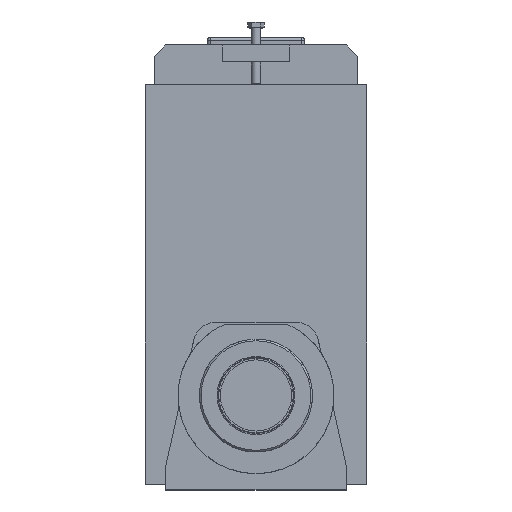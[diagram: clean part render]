
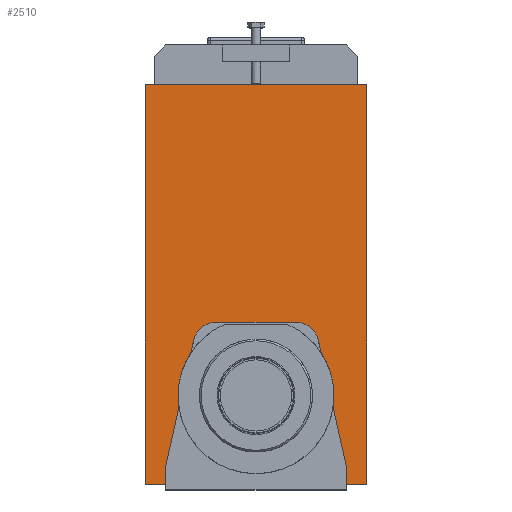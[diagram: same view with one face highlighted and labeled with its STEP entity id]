
A CAD part, top view. The second image highlights one B-rep face of the part: STEP entity #2510.
In plain terms, the highlighted planar face has unit normal (0, 0, 1).
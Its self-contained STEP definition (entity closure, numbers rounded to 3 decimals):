
#663=CARTESIAN_POINT('',(80.,-78.0,0.0));
#664=VERTEX_POINT('',#663);
#671=CARTESIAN_POINT('',(80.,-63.,0.0));
#672=VERTEX_POINT('',#671);
#673=CARTESIAN_POINT('',(80.,-78.0,0.0));
#674=DIRECTION('',(0.0,1.0,0.0));
#675=VECTOR('',#674,15.);
#676=LINE('',#673,#675);
#677=EDGE_CURVE('',#664,#672,#676,.T.);
#815=CARTESIAN_POINT('',(55.,49.344,0.0));
#816=VERTEX_POINT('',#815);
#823=CARTESIAN_POINT('',(35.478,65.,0.0));
#824=VERTEX_POINT('',#823);
#825=CARTESIAN_POINT('',(35.478,45.0,0.0));
#826=DIRECTION('',(0.0,0.0,1.));
#827=DIRECTION('',(0.976,0.217,0.0));
#828=AXIS2_PLACEMENT_3D('',#825,#826,#827);
#829=CIRCLE('',#828,20.);
#830=EDGE_CURVE('',#816,#824,#829,.T.);
#855=CARTESIAN_POINT('',(-35.478,65.0,0.0));
#856=VERTEX_POINT('',#855);
#857=CARTESIAN_POINT('',(35.478,65.,0.0));
#858=DIRECTION('',(-1.0,0.0,0.0));
#859=VECTOR('',#858,70.955);
#860=LINE('',#857,#859);
#861=EDGE_CURVE('',#824,#856,#860,.T.);
#887=CARTESIAN_POINT('',(-55.0,49.344,0.0));
#888=VERTEX_POINT('',#887);
#889=CARTESIAN_POINT('',(-35.478,45.0,0.0));
#890=DIRECTION('',(0.0,0.0,1.0));
#891=DIRECTION('',(0.0,1.0,0.0));
#892=AXIS2_PLACEMENT_3D('',#889,#890,#891);
#893=CIRCLE('',#892,20.0);
#894=EDGE_CURVE('',#856,#888,#893,.T.);
#982=CARTESIAN_POINT('',(-80.,-63.,0.0));
#983=VERTEX_POINT('',#982);
#990=CARTESIAN_POINT('',(-80.0,-78.0,0.0));
#991=VERTEX_POINT('',#990);
#992=CARTESIAN_POINT('',(-80.,-63.,0.0));
#993=DIRECTION('',(0.0,-1.0,0.0));
#994=VECTOR('',#993,15.);
#995=LINE('',#992,#994);
#996=EDGE_CURVE('',#983,#991,#995,.T.);
#1029=CARTESIAN_POINT('',(80.,-63.,0.0));
#1030=DIRECTION('',(-0.217,0.976,0.0));
#1031=VECTOR('',#1030,115.092);
#1032=LINE('',#1029,#1031);
#1033=EDGE_CURVE('',#672,#816,#1032,.T.);
#1296=CARTESIAN_POINT('',(-55.0,49.344,0.0));
#1297=DIRECTION('',(-0.217,-0.976,0.0));
#1298=VECTOR('',#1297,115.092);
#1299=LINE('',#1296,#1298);
#1300=EDGE_CURVE('',#888,#983,#1299,.T.);
#2375=CARTESIAN_POINT('',(98.0,-78.0,0.0));
#2376=VERTEX_POINT('',#2375);
#2377=CARTESIAN_POINT('',(98.0,-78.0,0.0));
#2378=DIRECTION('',(-1.0,0.0,0.0));
#2379=VECTOR('',#2378,18.);
#2380=LINE('',#2377,#2379);
#2381=EDGE_CURVE('',#2376,#664,#2380,.T.);
#2384=CARTESIAN_POINT('',(-98.0,-78.0,0.0));
#2385=VERTEX_POINT('',#2384);
#2386=CARTESIAN_POINT('',(-80.0,-78.0,0.0));
#2387=DIRECTION('',(-1.0,0.0,0.0));
#2388=VECTOR('',#2387,18.0);
#2389=LINE('',#2386,#2388);
#2390=EDGE_CURVE('',#991,#2385,#2389,.T.);
#2413=CARTESIAN_POINT('',(98.,276.0,0.0));
#2414=VERTEX_POINT('',#2413);
#2415=CARTESIAN_POINT('',(98.,276.0,0.0));
#2416=DIRECTION('',(0.0,-1.0,0.0));
#2417=VECTOR('',#2416,354.0);
#2418=LINE('',#2415,#2417);
#2419=EDGE_CURVE('',#2414,#2376,#2418,.T.);
#2437=CARTESIAN_POINT('',(-98.,276.0,0.0));
#2438=VERTEX_POINT('',#2437);
#2439=CARTESIAN_POINT('',(-98.,276.0,0.0));
#2440=DIRECTION('',(1.0,0.0,0.0));
#2441=VECTOR('',#2440,196.);
#2442=LINE('',#2439,#2441);
#2443=EDGE_CURVE('',#2438,#2414,#2442,.T.);
#2479=CARTESIAN_POINT('',(-98.0,-78.0,0.0));
#2480=DIRECTION('',(0.0,1.0,0.0));
#2481=VECTOR('',#2480,354.0);
#2482=LINE('',#2479,#2481);
#2483=EDGE_CURVE('',#2385,#2438,#2482,.T.);
#2491=CARTESIAN_POINT('',(0.,99.,0.0));
#2492=DIRECTION('',(0.0,0.0,1.0));
#2493=DIRECTION('',(1.0,0.0,0.0));
#2494=AXIS2_PLACEMENT_3D('',#2491,#2492,#2493);
#2495=PLANE('',#2494);
#2496=ORIENTED_EDGE('',*,*,#996,.F.);
#2497=ORIENTED_EDGE('',*,*,#1300,.F.);
#2498=ORIENTED_EDGE('',*,*,#894,.F.);
#2499=ORIENTED_EDGE('',*,*,#861,.F.);
#2500=ORIENTED_EDGE('',*,*,#830,.F.);
#2501=ORIENTED_EDGE('',*,*,#1033,.F.);
#2502=ORIENTED_EDGE('',*,*,#677,.F.);
#2503=ORIENTED_EDGE('',*,*,#2381,.F.);
#2504=ORIENTED_EDGE('',*,*,#2419,.F.);
#2505=ORIENTED_EDGE('',*,*,#2443,.F.);
#2506=ORIENTED_EDGE('',*,*,#2483,.F.);
#2507=ORIENTED_EDGE('',*,*,#2390,.F.);
#2508=EDGE_LOOP('',(#2496,#2497,#2498,#2499,#2500,#2501,#2502,#2503,#2504,#2505,#2506,#2507));
#2509=FACE_OUTER_BOUND('',#2508,.T.);
#2510=ADVANCED_FACE('',(#2509),#2495,.T.);
